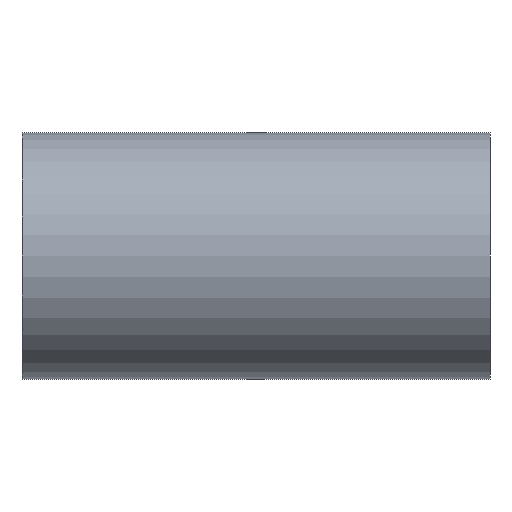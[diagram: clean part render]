
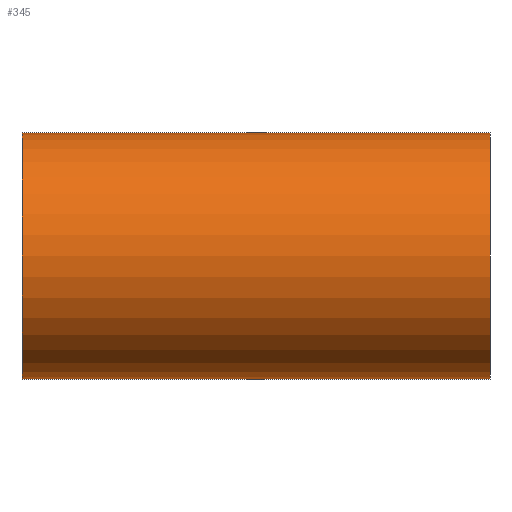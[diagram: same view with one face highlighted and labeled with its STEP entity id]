
A CAD part, left-side view. The second image highlights one B-rep face of the part: STEP entity #345.
In plain terms, the highlighted cylindrical face has radius 25.5 mm (diameter 51 mm), a full revolution.
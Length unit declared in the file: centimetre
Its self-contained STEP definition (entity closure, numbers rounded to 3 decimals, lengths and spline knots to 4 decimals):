
#54=FACE_BOUND('',#132,.T.);
#55=FACE_BOUND('',#133,.T.);
#78=CIRCLE('',#384,2.55);
#79=CIRCLE('',#385,2.55);
#99=FACE_OUTER_BOUND('',#131,.T.);
#131=EDGE_LOOP('',(#274));
#132=EDGE_LOOP('',(#275,#276));
#133=EDGE_LOOP('',(#277));
#151=ELLIPSE('',#357,3.6062,2.55);
#152=ELLIPSE('',#358,3.6062,2.55);
#155=VERTEX_POINT('',#489);
#156=VERTEX_POINT('',#490);
#179=VERTEX_POINT('',#3943);
#180=VERTEX_POINT('',#3945);
#185=EDGE_CURVE('',#155,#156,#151,.T.);
#186=EDGE_CURVE('',#156,#155,#152,.T.);
#216=EDGE_CURVE('',#179,#179,#78,.T.);
#217=EDGE_CURVE('',#180,#180,#79,.T.);
#274=ORIENTED_EDGE('',*,*,#216,.F.);
#275=ORIENTED_EDGE('',*,*,#185,.T.);
#276=ORIENTED_EDGE('',*,*,#186,.T.);
#277=ORIENTED_EDGE('',*,*,#217,.F.);
#301=CYLINDRICAL_SURFACE('',#383,2.55);
#345=ADVANCED_FACE('',(#99,#54,#55),#301,.T.);
#357=AXIS2_PLACEMENT_3D('',#491,#402,#403);
#358=AXIS2_PLACEMENT_3D('',#492,#404,#405);
#383=AXIS2_PLACEMENT_3D('',#3942,#457,#458);
#384=AXIS2_PLACEMENT_3D('',#3944,#459,#460);
#385=AXIS2_PLACEMENT_3D('',#3946,#461,#462);
#402=DIRECTION('center_axis',(-0.707,0.707,0.));
#403=DIRECTION('ref_axis',(0.707,0.707,0.));
#404=DIRECTION('center_axis',(-0.707,-0.707,0.));
#405=DIRECTION('ref_axis',(-0.707,0.707,0.));
#457=DIRECTION('center_axis',(0.,-1.,0.));
#458=DIRECTION('ref_axis',(1.,0.,0.));
#459=DIRECTION('center_axis',(0.,1.,0.));
#460=DIRECTION('ref_axis',(1.,0.,0.));
#461=DIRECTION('center_axis',(0.,-1.,0.));
#462=DIRECTION('ref_axis',(1.,0.,0.));
#489=CARTESIAN_POINT('',(0.,0.,2.55));
#490=CARTESIAN_POINT('',(0.,0.,-2.55));
#491=CARTESIAN_POINT('Origin',(0.,0.,0.));
#492=CARTESIAN_POINT('Origin',(0.,0.,0.));
#3942=CARTESIAN_POINT('Origin',(0.,0.,0.));
#3943=CARTESIAN_POINT('',(-2.55,4.85,0.));
#3944=CARTESIAN_POINT('Origin',(0.,4.85,0.));
#3945=CARTESIAN_POINT('',(-2.55,-4.85,0.));
#3946=CARTESIAN_POINT('Origin',(0.,-4.85,0.));
